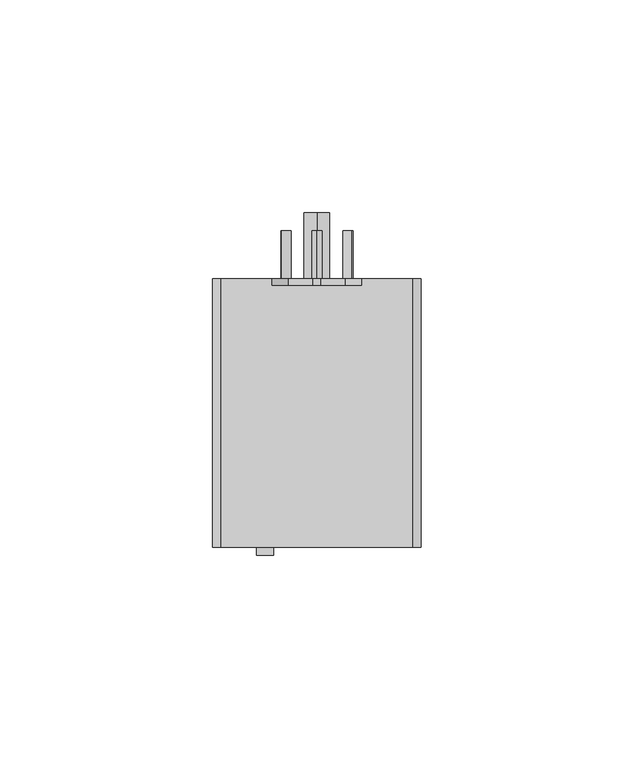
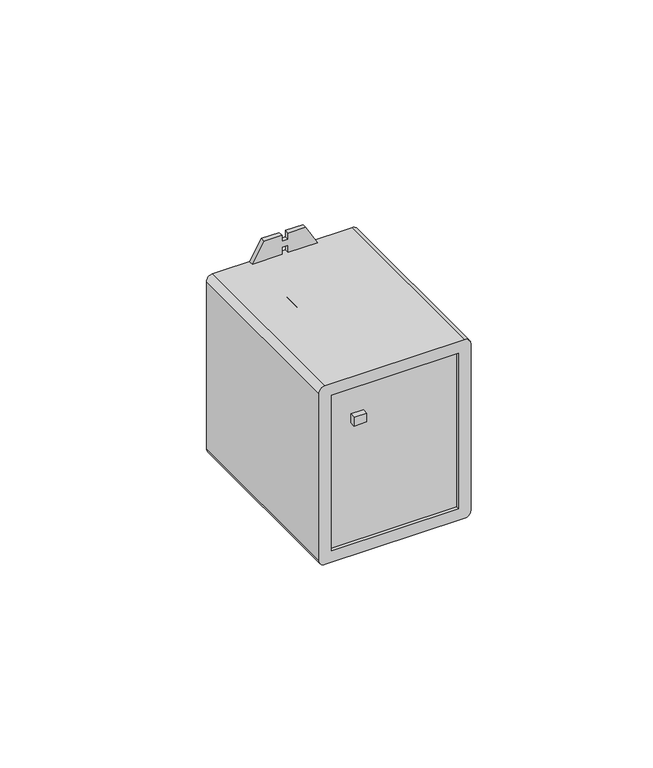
"""IFC4 building model written with IfcOpenShell, lengths in millimetres: proxy geometry, TDM_РЕЛЕ КОНТРОЛЯ ФАЗ СЕРИИ РКФ-8Ц (ТРЕХФАЗНЫЕ) : Трехфазная трехпроводная."""

from ifc_helpers import new_model, si_unit, point, frame, frame_2d, origin, place, context, project, spatial, polyline, circle_curve, trimmed, segment, composite_curve, outline, extrude, source, transform, mapped, element, save
from ifc_brep_helpers import plane_surface, cylinder_surface, advanced_brep


def electrical_equipment_f3651a05(model_context):
    return source(origin(), model_context, "Body", "SolidModel", [
        extrude(outline(polyline([(-30.5, -10.507164), (-37.0625, -6.7183028), (-37.0625, -1.0), (-35.0, -1.0), (-35.0, 1.0), (-37.0625, 1.0), (-37.0625, 6.7183028), (-30.5, 10.507164), (-30.5, 1.0), (-33.0, 1.0), (-33.0, -1.0), (-30.5, -1.0), (-30.5, -10.507164)])), frame((0.0, 27.5, 0.0), z_axis=(0.0, 1.0, 0.0), x_axis=(0.0, 0.0, 1.0)), (0.0, 0.0, 1.0), 1.5),
        extrude(outline(polyline([(30.5, -10.507164), (30.5, -1.0), (33.0, -1.0), (33.0, 1.0), (30.5, 1.0), (30.5, 10.507164), (37.0625, 6.7183028), (37.0625, 1.0), (35.0, 1.0), (35.0, -1.0), (37.0625, -1.0), (37.0625, -6.7183028), (30.5, -10.507164)])), frame((0.0, 27.5, 0.0), z_axis=(0.0, 1.0, 0.0), x_axis=(0.0, 0.0, 1.0)), (0.0, 0.0, 1.0), 1.5),
        extrude(outline(composite_curve([segment(trimmed(circle_curve(frame_2d((8.3957921, 0.0)), 1.1641531), [point((7.231639, 0.0))], [point((9.5599453, 0.0))], False, "CARTESIAN"), True, "CONTINUOUS"), segment(trimmed(circle_curve(frame_2d((8.3957921, 0.0)), 1.1641531), [point((9.5599453, 0.0))], [point((7.231639, 0.0))], False, "CARTESIAN"), True, "CONTINUOUS")], self_intersect=False)), frame((0.0, 29.0, 0.0), z_axis=(0.0, 1.0, 0.0), x_axis=(0.0, 0.0, 1.0)), (0.0, 0.0, 1.0), 11.2959618),
        extrude(outline(composite_curve([segment(trimmed(circle_curve(frame_2d((4.1978961, -7.2709693)), 1.1641531), [point((3.6158195, -6.2627831))], [point((4.7799726, -8.2791554))], False, "CARTESIAN"), True, "CONTINUOUS"), segment(trimmed(circle_curve(frame_2d((4.1978961, -7.2709693)), 1.1641531), [point((4.7799726, -8.2791554))], [point((3.6158195, -6.2627831))], False, "CARTESIAN"), True, "CONTINUOUS")], self_intersect=False)), frame((0.0, 29.0, 0.0), z_axis=(0.0, 1.0, 0.0), x_axis=(0.0, 0.0, 1.0)), (0.0, 0.0, 1.0), 11.2959618),
        extrude(outline(composite_curve([segment(trimmed(circle_curve(frame_2d((4.1978961, 7.2709693)), 1.1641531), [point((3.6158195, 6.2627831))], [point((4.7799726, 8.2791554))], False, "CARTESIAN"), True, "CONTINUOUS"), segment(trimmed(circle_curve(frame_2d((4.1978961, 7.2709693)), 1.1641531), [point((4.7799726, 8.2791554))], [point((3.6158195, 6.2627831))], False, "CARTESIAN"), True, "CONTINUOUS")], self_intersect=False)), frame((0.0, 29.0, 0.0), z_axis=(0.0, 1.0, 0.0), x_axis=(0.0, 0.0, 1.0)), (0.0, 0.0, 1.0), 11.2959618),
        extrude(outline(composite_curve([segment(trimmed(circle_curve(frame_2d((-4.1978961, 7.2709693)), 1.1641531), [point((-3.6158195, 6.2627831))], [point((-4.7799726, 8.2791554))], False, "CARTESIAN"), True, "CONTINUOUS"), segment(trimmed(circle_curve(frame_2d((-4.1978961, 7.2709693)), 1.1641531), [point((-4.7799726, 8.2791554))], [point((-3.6158195, 6.2627831))], False, "CARTESIAN"), True, "CONTINUOUS")], self_intersect=False)), frame((0.0, 29.0, 0.0), z_axis=(0.0, 1.0, 0.0), x_axis=(0.0, 0.0, 1.0)), (0.0, 0.0, 1.0), 11.2959618),
        extrude(outline(composite_curve([segment(trimmed(circle_curve(frame_2d((-8.3957921, 0.0)), 1.1641531), [point((-7.231639, 0.0))], [point((-9.5599453, 0.0))], False, "CARTESIAN"), True, "CONTINUOUS"), segment(trimmed(circle_curve(frame_2d((-8.3957921, 0.0)), 1.1641531), [point((-9.5599453, 0.0))], [point((-7.231639, 0.0))], False, "CARTESIAN"), True, "CONTINUOUS")], self_intersect=False)), frame((0.0, 29.0, 0.0), z_axis=(0.0, 1.0, 0.0), x_axis=(0.0, 0.0, 1.0)), (0.0, 0.0, 1.0), 11.2959618),
        extrude(outline(composite_curve([segment(trimmed(circle_curve(frame_2d((-4.1978961, -7.2709693)), 1.1641531), [point((-3.6158195, -6.2627831))], [point((-4.7799726, -8.2791554))], False, "CARTESIAN"), True, "CONTINUOUS"), segment(trimmed(circle_curve(frame_2d((-4.1978961, -7.2709693)), 1.1641531), [point((-4.7799726, -8.2791554))], [point((-3.6158195, -6.2627831))], False, "CARTESIAN"), True, "CONTINUOUS")], self_intersect=False)), frame((0.0, 29.0, 0.0), z_axis=(0.0, 1.0, 0.0), x_axis=(0.0, 0.0, 1.0)), (0.0, 0.0, 1.0), 11.2959618),
        advanced_brep(
        [(0.0, 44.5, -3.0), (0.0, 44.5, 3.0), (0.0, 44.5, 0.0), (0.0, 29.0, -3.0), (0.0, 29.0, 3.0), (0.0, 29.0, 0.0)],
        [
            (0, 1, circle_curve(frame((0.0, 44.5, 0.0), z_axis=(0.0, 1.0, 0.0), x_axis=(0.0, 0.0, 1.0)), 3.0)),
            (1, 2),
            (2, 0),
            (1, 0, circle_curve(frame((0.0, 44.5, 0.0), z_axis=(0.0, 1.0, 0.0), x_axis=(0.0, 0.0, 1.0)), 3.0)),
            (3, 4, circle_curve(frame((0.0, 29.0, 0.0), z_axis=(0.0, 1.0, 0.0), x_axis=(0.0, 0.0, 1.0)), 3.0)),
            (4, 1),
            (0, 3),
            (4, 3, circle_curve(frame((0.0, 29.0, 0.0), z_axis=(0.0, 1.0, 0.0), x_axis=(0.0, 0.0, 1.0)), 3.0)),
            (5, 4),
            (3, 5),
        ],
        [
            plane_surface(frame((0.0, 44.5, 0.0), z_axis=(0.0, 1.0, 0.0), x_axis=(0.0, 0.0, 1.0))),
            cylinder_surface(frame((0.0, 38.2709729, 0.0), z_axis=(0.0, -1.0, 0.0), x_axis=(0.0, 0.0, 1.0)), 3.0),
            plane_surface(frame((0.0, 29.0, 0.0), z_axis=(0.0, -1.0, 0.0), x_axis=(0.0, 0.0, 1.0))),
        ],
        [
            (0, [[1, 2, 3]]),
            (0, [[4, -3, -2]]),
            (1, [[5, 6, -1, 7]]),
            (1, [[8, -7, -4, -6]]),
            (2, [[9, -5, 10]]),
            (2, [[-10, -8, -9]]),
        ],
    ),
        extrude(outline(polyline([(20.5, -32.8834225), (-20.5, -32.8834225), (-20.5, 29.0), (20.5, 29.0), (20.5, -32.8834225)])), frame((0.0, 0.0, -26.5), z_axis=(0.0, 0.0, 1.0), x_axis=(1.0, 0.0, 0.0)), (0.0, 0.0, 1.0), 53.0),
        extrude(outline(composite_curve([segment(polyline([(30.5, 22.5), (30.5, -22.5)]), True, "CONTINUOUS"), segment(trimmed(circle_curve(frame_2d((28.5, -22.5)), 2.0), [point((30.5, -22.5))], [point((28.5, -24.5))], False, "CARTESIAN"), True, "CONTINUOUS"), segment(polyline([(28.5, -24.5), (-28.5, -24.5)]), True, "CONTINUOUS"), segment(trimmed(circle_curve(frame_2d((-28.5, -22.5)), 2.0), [point((-28.5, -24.5))], [point((-30.5, -22.5))], False, "CARTESIAN"), True, "CONTINUOUS"), segment(polyline([(-30.5, -22.5), (-30.5, 22.5)]), True, "CONTINUOUS"), segment(trimmed(circle_curve(frame_2d((-28.5, 22.5)), 2.0), [point((-30.5, 22.5))], [point((-28.5, 24.5))], False, "CARTESIAN"), True, "CONTINUOUS"), segment(polyline([(-28.5, 24.5), (28.5, 24.5)]), True, "CONTINUOUS"), segment(trimmed(circle_curve(frame_2d((28.5, 22.5)), 2.0), [point((28.5, 24.5))], [point((30.5, 22.5))], False, "CARTESIAN"), True, "CONTINUOUS")], self_intersect=False), holes=[polyline([(-26.5, 20.5), (-26.5, -20.5), (26.5, -20.5), (26.5, 20.5), (-26.5, 20.5)])]), frame((0.0, -34.0, 0.0), z_axis=(0.0, 1.0, 0.0), x_axis=(0.0, 0.0, 1.0)), (0.0, 0.0, 1.0), 63.0),
        extrude(outline(polyline([(-10.2011402, -34.0), (-10.2011402, -35.8999458), (-14.235443, -35.8999458), (-14.235443, -34.0), (-10.2011402, -34.0)])), frame((0.0, 0.0, 15.0), z_axis=(0.0, 0.0, 1.0), x_axis=(1.0, 0.0, 0.0)), (0.0, 0.0, 1.0), 3.008047),
        extrude(outline(polyline([(-30.5, -10.507164), (-37.0625, -6.7183028), (-37.0625, -1.0), (-35.0, -1.0), (-35.0, 1.0), (-37.0625, 1.0), (-37.0625, 6.7183028), (-30.5, 10.507164), (-30.5, 1.0), (-33.0, 1.0), (-33.0, -1.0), (-30.5, -1.0), (-30.5, -10.507164)])), frame((0.0, 27.5, 0.0), z_axis=(0.0, 1.0, 0.0), x_axis=(0.0, 0.0, 1.0)), (0.0, 0.0, 1.0), 1.5),
        extrude(outline(polyline([(30.5, -10.507164), (30.5, -1.0), (33.0, -1.0), (33.0, 1.0), (30.5, 1.0), (30.5, 10.507164), (37.0625, 6.7183028), (37.0625, 1.0), (35.0, 1.0), (35.0, -1.0), (37.0625, -1.0), (37.0625, -6.7183028), (30.5, -10.507164)])), frame((0.0, 27.5, 0.0), z_axis=(0.0, 1.0, 0.0), x_axis=(0.0, 0.0, 1.0)), (0.0, 0.0, 1.0), 1.5),
        extrude(outline(composite_curve([segment(trimmed(circle_curve(frame_2d((8.3957921, 0.0)), 1.1641531), [point((7.231639, 0.0))], [point((9.5599453, 0.0))], False, "CARTESIAN"), True, "CONTINUOUS"), segment(trimmed(circle_curve(frame_2d((8.3957921, 0.0)), 1.1641531), [point((9.5599453, 0.0))], [point((7.231639, 0.0))], False, "CARTESIAN"), True, "CONTINUOUS")], self_intersect=False)), frame((0.0, 29.0, 0.0), z_axis=(0.0, 1.0, 0.0), x_axis=(0.0, 0.0, 1.0)), (0.0, 0.0, 1.0), 11.2959618),
        extrude(outline(composite_curve([segment(trimmed(circle_curve(frame_2d((4.1978961, -7.2709693)), 1.1641531), [point((3.6158195, -6.2627831))], [point((4.7799726, -8.2791554))], False, "CARTESIAN"), True, "CONTINUOUS"), segment(trimmed(circle_curve(frame_2d((4.1978961, -7.2709693)), 1.1641531), [point((4.7799726, -8.2791554))], [point((3.6158195, -6.2627831))], False, "CARTESIAN"), True, "CONTINUOUS")], self_intersect=False)), frame((0.0, 29.0, 0.0), z_axis=(0.0, 1.0, 0.0), x_axis=(0.0, 0.0, 1.0)), (0.0, 0.0, 1.0), 11.2959618),
        extrude(outline(composite_curve([segment(trimmed(circle_curve(frame_2d((4.1978961, 7.2709693)), 1.1641531), [point((3.6158195, 6.2627831))], [point((4.7799726, 8.2791554))], False, "CARTESIAN"), True, "CONTINUOUS"), segment(trimmed(circle_curve(frame_2d((4.1978961, 7.2709693)), 1.1641531), [point((4.7799726, 8.2791554))], [point((3.6158195, 6.2627831))], False, "CARTESIAN"), True, "CONTINUOUS")], self_intersect=False)), frame((0.0, 29.0, 0.0), z_axis=(0.0, 1.0, 0.0), x_axis=(0.0, 0.0, 1.0)), (0.0, 0.0, 1.0), 11.2959618),
        extrude(outline(composite_curve([segment(trimmed(circle_curve(frame_2d((-4.1978961, 7.2709693)), 1.1641531), [point((-3.6158195, 6.2627831))], [point((-4.7799726, 8.2791554))], False, "CARTESIAN"), True, "CONTINUOUS"), segment(trimmed(circle_curve(frame_2d((-4.1978961, 7.2709693)), 1.1641531), [point((-4.7799726, 8.2791554))], [point((-3.6158195, 6.2627831))], False, "CARTESIAN"), True, "CONTINUOUS")], self_intersect=False)), frame((0.0, 29.0, 0.0), z_axis=(0.0, 1.0, 0.0), x_axis=(0.0, 0.0, 1.0)), (0.0, 0.0, 1.0), 11.2959618),
        extrude(outline(composite_curve([segment(trimmed(circle_curve(frame_2d((-8.3957921, 0.0)), 1.1641531), [point((-7.231639, 0.0))], [point((-9.5599453, 0.0))], False, "CARTESIAN"), True, "CONTINUOUS"), segment(trimmed(circle_curve(frame_2d((-8.3957921, 0.0)), 1.1641531), [point((-9.5599453, 0.0))], [point((-7.231639, 0.0))], False, "CARTESIAN"), True, "CONTINUOUS")], self_intersect=False)), frame((0.0, 29.0, 0.0), z_axis=(0.0, 1.0, 0.0), x_axis=(0.0, 0.0, 1.0)), (0.0, 0.0, 1.0), 11.2959618),
        extrude(outline(composite_curve([segment(trimmed(circle_curve(frame_2d((-4.1978961, -7.2709693)), 1.1641531), [point((-3.6158195, -6.2627831))], [point((-4.7799726, -8.2791554))], False, "CARTESIAN"), True, "CONTINUOUS"), segment(trimmed(circle_curve(frame_2d((-4.1978961, -7.2709693)), 1.1641531), [point((-4.7799726, -8.2791554))], [point((-3.6158195, -6.2627831))], False, "CARTESIAN"), True, "CONTINUOUS")], self_intersect=False)), frame((0.0, 29.0, 0.0), z_axis=(0.0, 1.0, 0.0), x_axis=(0.0, 0.0, 1.0)), (0.0, 0.0, 1.0), 11.2959618),
        advanced_brep(
        [(0.0, 44.5, -3.0), (0.0, 44.5, 3.0), (0.0, 44.5, 0.0), (0.0, 29.0, -3.0), (0.0, 29.0, 3.0), (0.0, 29.0, 0.0)],
        [
            (0, 1, circle_curve(frame((0.0, 44.5, 0.0), z_axis=(0.0, 1.0, 0.0), x_axis=(0.0, 0.0, 1.0)), 3.0)),
            (1, 2),
            (2, 0),
            (1, 0, circle_curve(frame((0.0, 44.5, 0.0), z_axis=(0.0, 1.0, 0.0), x_axis=(0.0, 0.0, 1.0)), 3.0)),
            (3, 4, circle_curve(frame((0.0, 29.0, 0.0), z_axis=(0.0, 1.0, 0.0), x_axis=(0.0, 0.0, 1.0)), 3.0)),
            (4, 1),
            (0, 3),
            (4, 3, circle_curve(frame((0.0, 29.0, 0.0), z_axis=(0.0, 1.0, 0.0), x_axis=(0.0, 0.0, 1.0)), 3.0)),
            (5, 4),
            (3, 5),
        ],
        [
            plane_surface(frame((0.0, 44.5, 0.0), z_axis=(0.0, 1.0, 0.0), x_axis=(0.0, 0.0, 1.0))),
            cylinder_surface(frame((0.0, 38.2709729, 0.0), z_axis=(0.0, -1.0, 0.0), x_axis=(0.0, 0.0, 1.0)), 3.0),
            plane_surface(frame((0.0, 29.0, 0.0), z_axis=(0.0, -1.0, 0.0), x_axis=(0.0, 0.0, 1.0))),
        ],
        [
            (0, [[1, 2, 3]]),
            (0, [[4, -3, -2]]),
            (1, [[5, 6, -1, 7]]),
            (1, [[8, -7, -4, -6]]),
            (2, [[9, -5, 10]]),
            (2, [[-10, -8, -9]]),
        ],
    ),
        extrude(outline(polyline([(20.5, -32.8834225), (-20.5, -32.8834225), (-20.5, 29.0), (20.5, 29.0), (20.5, -32.8834225)])), frame((0.0, 0.0, -26.5), z_axis=(0.0, 0.0, 1.0), x_axis=(1.0, 0.0, 0.0)), (0.0, 0.0, 1.0), 53.0),
        extrude(outline(composite_curve([segment(polyline([(30.5, 22.5), (30.5, -22.5)]), True, "CONTINUOUS"), segment(trimmed(circle_curve(frame_2d((28.5, -22.5)), 2.0), [point((30.5, -22.5))], [point((28.5, -24.5))], False, "CARTESIAN"), True, "CONTINUOUS"), segment(polyline([(28.5, -24.5), (-28.5, -24.5)]), True, "CONTINUOUS"), segment(trimmed(circle_curve(frame_2d((-28.5, -22.5)), 2.0), [point((-28.5, -24.5))], [point((-30.5, -22.5))], False, "CARTESIAN"), True, "CONTINUOUS"), segment(polyline([(-30.5, -22.5), (-30.5, 22.5)]), True, "CONTINUOUS"), segment(trimmed(circle_curve(frame_2d((-28.5, 22.5)), 2.0), [point((-30.5, 22.5))], [point((-28.5, 24.5))], False, "CARTESIAN"), True, "CONTINUOUS"), segment(polyline([(-28.5, 24.5), (28.5, 24.5)]), True, "CONTINUOUS"), segment(trimmed(circle_curve(frame_2d((28.5, 22.5)), 2.0), [point((28.5, 24.5))], [point((30.5, 22.5))], False, "CARTESIAN"), True, "CONTINUOUS")], self_intersect=False), holes=[polyline([(-26.5, 20.5), (-26.5, -20.5), (26.5, -20.5), (26.5, 20.5), (-26.5, 20.5)])]), frame((0.0, -34.0, 0.0), z_axis=(0.0, 1.0, 0.0), x_axis=(0.0, 0.0, 1.0)), (0.0, 0.0, 1.0), 63.0),
    ])


if __name__ == "__main__":
    model = new_model("IFC4")
    model_context = context("Model", 3, world=origin())
    ifc_project = project(units=[si_unit("LENGTHUNIT", "METRE", prefix="MILLI")], contexts=[model_context])
    site = spatial("IfcSite", under=ifc_project)
    building = spatial("IfcBuilding", under=site)
    placement = place(None, origin())
    electrical_equipment_shape = electrical_equipment_f3651a05(model_context)
    element("IfcBuildingElementProxy", 1, Name="TDM_РЕЛЕ КОНТРОЛЯ ФАЗ СЕРИИ РКФ-8Ц (ТРЕХФАЗНЫЕ) : Трехфазная трехпроводная", ObjectType="TDM_РЕЛЕ КОНТРОЛЯ ФАЗ СЕРИИ РКФ-8Ц (ТРЕХФАЗНЫЕ) : Трехфазная трехпроводная", at=placement, inside=building, context=model_context, shape_type="MappedRepresentation", body=[
        mapped(electrical_equipment_shape, transform((0.0, 0.0, 0.0), x_axis=(1.0, 0.0, 0.0), y_axis=(0.0, 1.0, 0.0), z_axis=(0.0, 0.0, 1.0))),
    ])
    save(model, "model.ifc")
